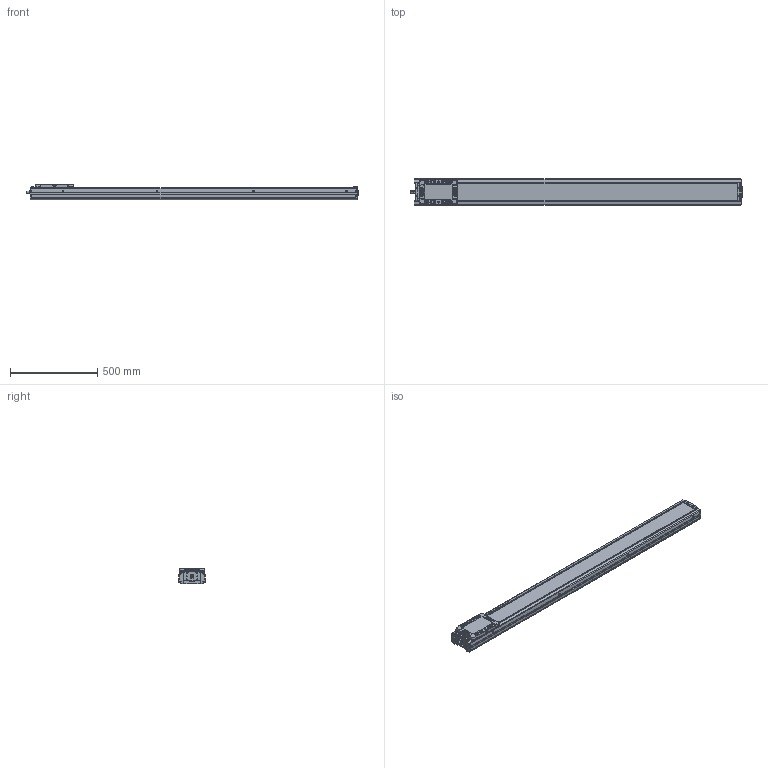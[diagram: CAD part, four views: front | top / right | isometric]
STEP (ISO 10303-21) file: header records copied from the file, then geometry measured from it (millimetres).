
FILE_DESCRIPTION(('STEP AP214'),'1');
FILE_NAME('Z:/Web/3D/SAN150/2013.04 (STP.)/SAN150ㅁㅁ-1600.stp','2013-05-07T08:15:04',(' '),(' '),'Spatial InterOp 3D',' ',' ');
FILE_SCHEMA(('automotive_design'));
Length unit declared in the file: millimetre
Products named in the file (39): SLBL-SAN150; SLCV-SAN150; FHCS M4.0 x 8.0; BHCS M4.0 x 10.0; SFX-SAN150; RRCV-SAN150; FRBL-SAN150; Spacer; RN15; FRCV-SAN150; Screw 20; BASE-SAN150-000L ; SUS COVER; 스크루 : Round - M5.0 x 6.0
Bounding box: 1908 x 150 x 90 mm (x, y, z)
Volume: 9553455.3 mm3; surface area: 1749791.3 mm2
Topology: 39 solids, 39 shells, 2343 faces, 6042 edges, 3831 vertices
Faces by surface type: plane 1051, cylinder 873, cone 330, sphere 56, bspline 21, torus 12
Entity records: 93829 total; most frequent: CARTESIAN_POINT 16117, DIRECTION 12802, ORIENTED_EDGE 11788, EDGE_CURVE 5894, AXIS2_PLACEMENT_3D 4679, VERTEX_POINT 3831, LINE 3444, VECTOR 3444
